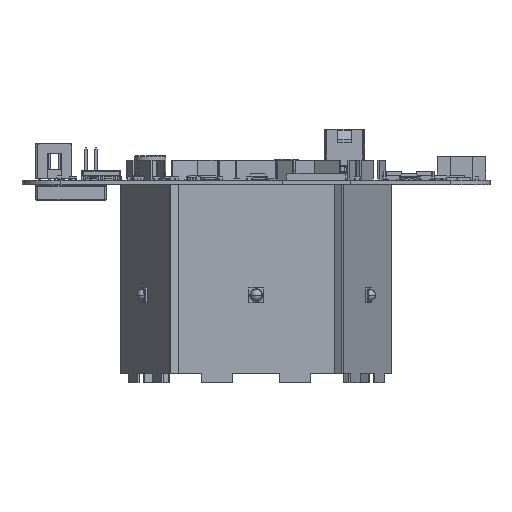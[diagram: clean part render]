
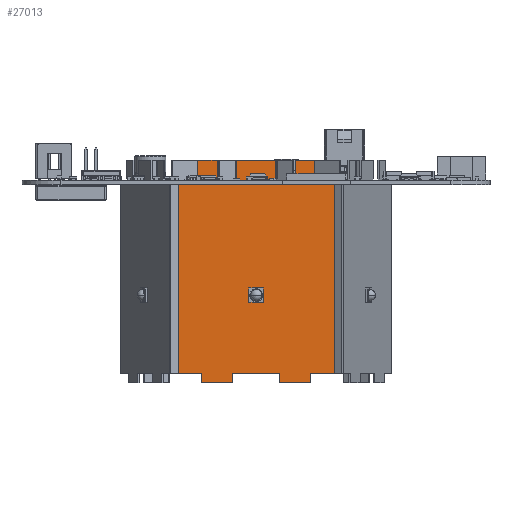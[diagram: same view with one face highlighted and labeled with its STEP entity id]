
A CAD part, front view. The second image highlights one B-rep face of the part: STEP entity #27013.
In plain terms, the highlighted planar face has unit normal (0, -1, 0).
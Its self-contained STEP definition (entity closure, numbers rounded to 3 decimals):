
#26244 = VERTEX_POINT('',#26245);
#26245 = CARTESIAN_POINT('',(20.038,-29.972,
    -0.5));
#26251 = EDGE_CURVE('',#26244,#26252,#26254,.T.);
#26252 = VERTEX_POINT('',#26253);
#26253 = CARTESIAN_POINT('',(15.038,-29.972,
    -0.5));
#26254 = LINE('',#26255,#26256);
#26255 = CARTESIAN_POINT('',(20.038,-29.972,
    -0.5));
#26256 = VECTOR('',#26257,1.);
#26257 = DIRECTION('',(-1.,0.,0.));
#26282 = EDGE_CURVE('',#26252,#26283,#26285,.T.);
#26283 = VERTEX_POINT('',#26284);
#26284 = CARTESIAN_POINT('',(15.038,-29.972,5.1
    ));
#26285 = LINE('',#26286,#26287);
#26286 = CARTESIAN_POINT('',(15.038,-29.972,
    -0.5));
#26287 = VECTOR('',#26288,1.);
#26288 = DIRECTION('',(0.,0.,1.));
#26313 = EDGE_CURVE('',#26283,#26314,#26316,.T.);
#26314 = VERTEX_POINT('',#26315);
#26315 = CARTESIAN_POINT('',(10.038,-29.972,
    5.1));
#26316 = LINE('',#26317,#26318);
#26317 = CARTESIAN_POINT('',(15.038,-29.972,5.1
    ));
#26318 = VECTOR('',#26319,1.);
#26319 = DIRECTION('',(-1.,0.,0.));
#26344 = EDGE_CURVE('',#26314,#26345,#26347,.T.);
#26345 = VERTEX_POINT('',#26346);
#26346 = CARTESIAN_POINT('',(10.038,-29.972,
    -0.5));
#26347 = LINE('',#26348,#26349);
#26348 = CARTESIAN_POINT('',(10.038,-29.972,
    5.1));
#26349 = VECTOR('',#26350,1.);
#26350 = DIRECTION('',(0.,0.,-1.));
#26375 = EDGE_CURVE('',#26345,#26376,#26378,.T.);
#26376 = VERTEX_POINT('',#26377);
#26377 = CARTESIAN_POINT('',(5.038,-29.972,
    -0.5));
#26378 = LINE('',#26379,#26380);
#26379 = CARTESIAN_POINT('',(10.038,-29.972,
    -0.5));
#26380 = VECTOR('',#26381,1.);
#26381 = DIRECTION('',(-1.,0.,0.));
#26406 = EDGE_CURVE('',#26376,#26407,#26409,.T.);
#26407 = VERTEX_POINT('',#26408);
#26408 = CARTESIAN_POINT('',(5.038,-29.972,
    5.1));
#26409 = LINE('',#26410,#26411);
#26410 = CARTESIAN_POINT('',(5.038,-29.972,
    -0.5));
#26411 = VECTOR('',#26412,1.);
#26412 = DIRECTION('',(0.,0.,1.));
#26437 = EDGE_CURVE('',#26407,#26438,#26440,.T.);
#26438 = VERTEX_POINT('',#26439);
#26439 = CARTESIAN_POINT('',(-4.962,-29.972,
    5.1));
#26440 = LINE('',#26441,#26442);
#26441 = CARTESIAN_POINT('',(5.038,-29.972,
    5.1));
#26442 = VECTOR('',#26443,1.);
#26443 = DIRECTION('',(-1.,0.,0.));
#26468 = EDGE_CURVE('',#26438,#26469,#26471,.T.);
#26469 = VERTEX_POINT('',#26470);
#26470 = CARTESIAN_POINT('',(-4.962,-29.972,
    -0.5));
#26471 = LINE('',#26472,#26473);
#26472 = CARTESIAN_POINT('',(-4.962,-29.972,
    5.1));
#26473 = VECTOR('',#26474,1.);
#26474 = DIRECTION('',(0.,0.,-1.));
#26499 = EDGE_CURVE('',#26469,#26500,#26502,.T.);
#26500 = VERTEX_POINT('',#26501);
#26501 = CARTESIAN_POINT('',(-9.962,-29.972,
    -0.5));
#26502 = LINE('',#26503,#26504);
#26503 = CARTESIAN_POINT('',(-4.962,-29.972,
    -0.5));
#26504 = VECTOR('',#26505,1.);
#26505 = DIRECTION('',(-1.,0.,0.));
#26530 = EDGE_CURVE('',#26500,#26531,#26533,.T.);
#26531 = VERTEX_POINT('',#26532);
#26532 = CARTESIAN_POINT('',(-9.962,-29.972,
    5.1));
#26533 = LINE('',#26534,#26535);
#26534 = CARTESIAN_POINT('',(-9.962,-29.972,
    -0.5));
#26535 = VECTOR('',#26536,1.);
#26536 = DIRECTION('',(0.,0.,1.));
#26561 = EDGE_CURVE('',#26531,#26562,#26564,.T.);
#26562 = VERTEX_POINT('',#26563);
#26563 = CARTESIAN_POINT('',(-14.962,-29.972,
    5.1));
#26564 = LINE('',#26565,#26566);
#26565 = CARTESIAN_POINT('',(-9.962,-29.972,
    5.1));
#26566 = VECTOR('',#26567,1.);
#26567 = DIRECTION('',(-1.,0.,0.));
#26592 = EDGE_CURVE('',#26562,#26593,#26595,.T.);
#26593 = VERTEX_POINT('',#26594);
#26594 = CARTESIAN_POINT('',(-14.962,-29.972,
    -0.5));
#26595 = LINE('',#26596,#26597);
#26596 = CARTESIAN_POINT('',(-14.962,-29.972,
    5.1));
#26597 = VECTOR('',#26598,1.);
#26598 = DIRECTION('',(0.,0.,-1.));
#26623 = EDGE_CURVE('',#26593,#26624,#26626,.T.);
#26624 = VERTEX_POINT('',#26625);
#26625 = CARTESIAN_POINT('',(-19.962,-29.972,
    -0.5));
#26626 = LINE('',#26627,#26628);
#26627 = CARTESIAN_POINT('',(-14.962,-29.972,
    -0.5));
#26628 = VECTOR('',#26629,1.);
#26629 = DIRECTION('',(-1.,0.,0.));
#26654 = EDGE_CURVE('',#26624,#26655,#26657,.T.);
#26655 = VERTEX_POINT('',#26656);
#26656 = CARTESIAN_POINT('',(-19.962,-29.972,
    -49.5));
#26657 = LINE('',#26658,#26659);
#26658 = CARTESIAN_POINT('',(-19.962,-29.972,
    -0.5));
#26659 = VECTOR('',#26660,1.);
#26660 = DIRECTION('',(0.,0.,-1.));
#26685 = EDGE_CURVE('',#26655,#26686,#26688,.T.);
#26686 = VERTEX_POINT('',#26687);
#26687 = CARTESIAN_POINT('',(-13.962,-29.972,
    -49.5));
#26688 = LINE('',#26689,#26690);
#26689 = CARTESIAN_POINT('',(-19.962,-29.972,
    -49.5));
#26690 = VECTOR('',#26691,1.);
#26691 = DIRECTION('',(1.,0.,0.));
#26716 = EDGE_CURVE('',#26686,#26717,#26719,.T.);
#26717 = VERTEX_POINT('',#26718);
#26718 = CARTESIAN_POINT('',(-13.962,-29.972,
    -52.));
#26719 = LINE('',#26720,#26721);
#26720 = CARTESIAN_POINT('',(-13.962,-29.972,
    -49.5));
#26721 = VECTOR('',#26722,1.);
#26722 = DIRECTION('',(0.,0.,-1.));
#26747 = EDGE_CURVE('',#26717,#26748,#26750,.T.);
#26748 = VERTEX_POINT('',#26749);
#26749 = CARTESIAN_POINT('',(-5.962,-29.972,
    -52.));
#26750 = LINE('',#26751,#26752);
#26751 = CARTESIAN_POINT('',(-13.962,-29.972,
    -52.));
#26752 = VECTOR('',#26753,1.);
#26753 = DIRECTION('',(1.,0.,0.));
#26778 = EDGE_CURVE('',#26748,#26779,#26781,.T.);
#26779 = VERTEX_POINT('',#26780);
#26780 = CARTESIAN_POINT('',(-5.962,-29.972,
    -49.5));
#26781 = LINE('',#26782,#26783);
#26782 = CARTESIAN_POINT('',(-5.962,-29.972,
    -52.));
#26783 = VECTOR('',#26784,1.);
#26784 = DIRECTION('',(0.,0.,1.));
#26809 = EDGE_CURVE('',#26779,#26810,#26812,.T.);
#26810 = VERTEX_POINT('',#26811);
#26811 = CARTESIAN_POINT('',(6.038,-29.972,
    -49.5));
#26812 = LINE('',#26813,#26814);
#26813 = CARTESIAN_POINT('',(-5.962,-29.972,
    -49.5));
#26814 = VECTOR('',#26815,1.);
#26815 = DIRECTION('',(1.,0.,0.));
#26840 = EDGE_CURVE('',#26810,#26841,#26843,.T.);
#26841 = VERTEX_POINT('',#26842);
#26842 = CARTESIAN_POINT('',(6.038,-29.972,
    -52.));
#26843 = LINE('',#26844,#26845);
#26844 = CARTESIAN_POINT('',(6.038,-29.972,
    -49.5));
#26845 = VECTOR('',#26846,1.);
#26846 = DIRECTION('',(0.,0.,-1.));
#26871 = EDGE_CURVE('',#26841,#26872,#26874,.T.);
#26872 = VERTEX_POINT('',#26873);
#26873 = CARTESIAN_POINT('',(14.038,-29.972,
    -52.));
#26874 = LINE('',#26875,#26876);
#26875 = CARTESIAN_POINT('',(6.038,-29.972,
    -52.));
#26876 = VECTOR('',#26877,1.);
#26877 = DIRECTION('',(1.,0.,0.));
#26902 = EDGE_CURVE('',#26872,#26903,#26905,.T.);
#26903 = VERTEX_POINT('',#26904);
#26904 = CARTESIAN_POINT('',(14.038,-29.972,
    -49.5));
#26905 = LINE('',#26906,#26907);
#26906 = CARTESIAN_POINT('',(14.038,-29.972,
    -52.));
#26907 = VECTOR('',#26908,1.);
#26908 = DIRECTION('',(0.,0.,1.));
#26933 = EDGE_CURVE('',#26903,#26934,#26936,.T.);
#26934 = VERTEX_POINT('',#26935);
#26935 = CARTESIAN_POINT('',(20.038,-29.972,
    -49.5));
#26936 = LINE('',#26937,#26938);
#26937 = CARTESIAN_POINT('',(14.038,-29.972,
    -49.5));
#26938 = VECTOR('',#26939,1.);
#26939 = DIRECTION('',(1.,0.,0.));
#26964 = EDGE_CURVE('',#26934,#26244,#26965,.T.);
#26965 = LINE('',#26966,#26967);
#26966 = CARTESIAN_POINT('',(20.038,-29.972,
    -49.5));
#26967 = VECTOR('',#26968,1.);
#26968 = DIRECTION('',(0.,0.,1.));
#27013 = ADVANCED_FACE('',(#27014),#27040,.T.);
#27014 = FACE_BOUND('',#27015,.T.);
#27015 = EDGE_LOOP('',(#27016,#27017,#27018,#27019,#27020,#27021,#27022,
    #27023,#27024,#27025,#27026,#27027,#27028,#27029,#27030,#27031,
    #27032,#27033,#27034,#27035,#27036,#27037,#27038,#27039));
#27016 = ORIENTED_EDGE('',*,*,#26251,.T.);
#27017 = ORIENTED_EDGE('',*,*,#26282,.T.);
#27018 = ORIENTED_EDGE('',*,*,#26313,.T.);
#27019 = ORIENTED_EDGE('',*,*,#26344,.T.);
#27020 = ORIENTED_EDGE('',*,*,#26375,.T.);
#27021 = ORIENTED_EDGE('',*,*,#26406,.T.);
#27022 = ORIENTED_EDGE('',*,*,#26437,.T.);
#27023 = ORIENTED_EDGE('',*,*,#26468,.T.);
#27024 = ORIENTED_EDGE('',*,*,#26499,.T.);
#27025 = ORIENTED_EDGE('',*,*,#26530,.T.);
#27026 = ORIENTED_EDGE('',*,*,#26561,.T.);
#27027 = ORIENTED_EDGE('',*,*,#26592,.T.);
#27028 = ORIENTED_EDGE('',*,*,#26623,.T.);
#27029 = ORIENTED_EDGE('',*,*,#26654,.T.);
#27030 = ORIENTED_EDGE('',*,*,#26685,.T.);
#27031 = ORIENTED_EDGE('',*,*,#26716,.T.);
#27032 = ORIENTED_EDGE('',*,*,#26747,.T.);
#27033 = ORIENTED_EDGE('',*,*,#26778,.T.);
#27034 = ORIENTED_EDGE('',*,*,#26809,.T.);
#27035 = ORIENTED_EDGE('',*,*,#26840,.T.);
#27036 = ORIENTED_EDGE('',*,*,#26871,.T.);
#27037 = ORIENTED_EDGE('',*,*,#26902,.T.);
#27038 = ORIENTED_EDGE('',*,*,#26933,.T.);
#27039 = ORIENTED_EDGE('',*,*,#26964,.T.);
#27040 = PLANE('',#27041);
#27041 = AXIS2_PLACEMENT_3D('',#27042,#27043,#27044);
#27042 = CARTESIAN_POINT('',(20.038,-29.972,
    -0.5));
#27043 = DIRECTION('',(0.,-1.,0.));
#27044 = DIRECTION('',(-1.,0.,0.));
